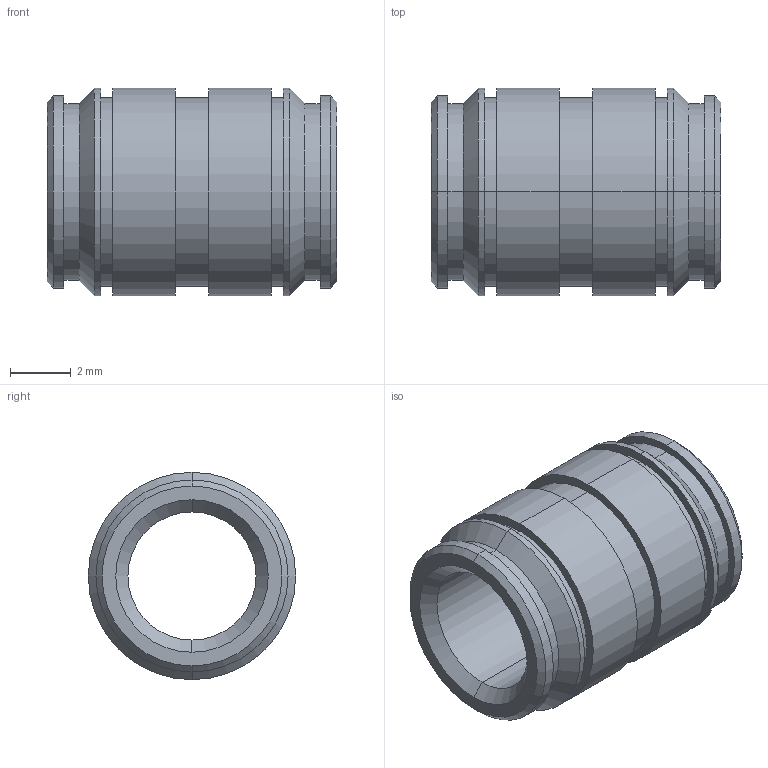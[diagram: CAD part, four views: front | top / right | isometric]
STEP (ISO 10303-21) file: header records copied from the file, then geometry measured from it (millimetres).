
FILE_DESCRIPTION (( 'STEP AP203' ), '1' );
FILE_NAME ('FSUK-DUO-M05-S.STEP', '2021-04-15T09:13:04', ( '' ), ( '' ), 'SwSTEP 2.0', 'SolidWorks 2021', '' );
FILE_SCHEMA (( 'CONFIG_CONTROL_DESIGN' ));
Length unit declared in the file: millimetre
Products named in the file (1): FSUK-DUO-M05-S
Bounding box: 9.5 x 6.8 x 6.8 mm (x, y, z)
Volume: 178.1 mm3; surface area: 396.9 mm2
Topology: 1 solids, 1 shells, 46 faces, 92 edges, 56 vertices
Faces by surface type: cylinder 24, cone 12, plane 10
Entity records: 1285 total; most frequent: DIRECTION 242, CARTESIAN_POINT 195, ORIENTED_EDGE 184, AXIS2_PLACEMENT_3D 103, EDGE_CURVE 92, EDGE_LOOP 56, VERTEX_POINT 56, CIRCLE 56
